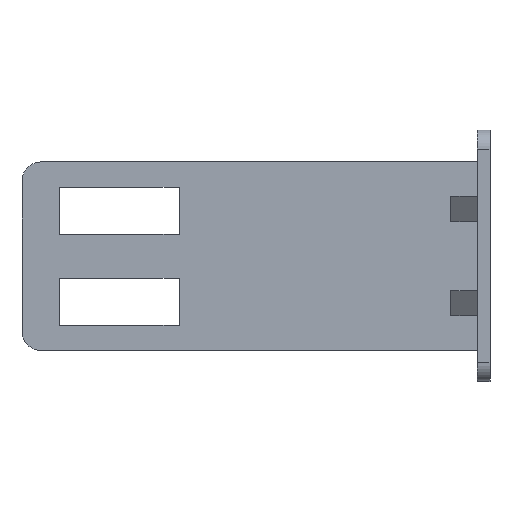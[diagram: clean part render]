
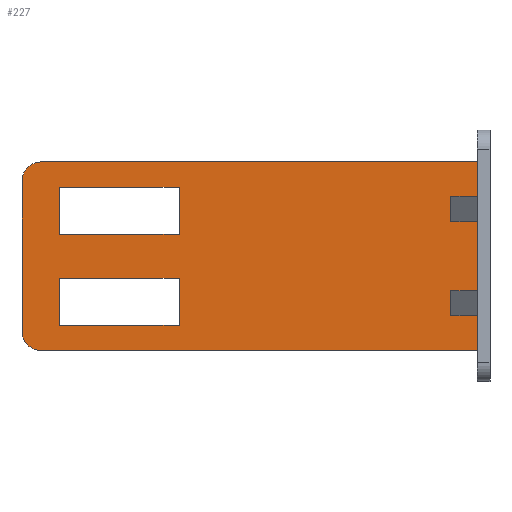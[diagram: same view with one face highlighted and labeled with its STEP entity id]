
A CAD part, top view. The second image highlights one B-rep face of the part: STEP entity #227.
In plain terms, the highlighted planar face has unit normal (0, 0, 1).
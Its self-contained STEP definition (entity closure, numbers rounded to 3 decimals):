
#5 = EDGE_CURVE ( 'NONE', #389, #46, #714, .T. ) ;
#12 = VERTEX_POINT ( 'NONE', #414 ) ;
#31 = EDGE_CURVE ( 'NONE', #82, #81, #724, .T. ) ;
#46 = VERTEX_POINT ( 'NONE', #460 ) ;
#72 = VERTEX_POINT ( 'NONE', #483 ) ;
#78 = VERTEX_POINT ( 'NONE', #488 ) ;
#81 = VERTEX_POINT ( 'NONE', #490 ) ;
#82 = VERTEX_POINT ( 'NONE', #496 ) ;
#96 = EDGE_CURVE ( 'NONE', #78, #12, #748, .T. ) ;
#179 = EDGE_LOOP ( 'NONE', ( #565, #566, #567, #568, #569, #570, #571, #572, #573, #574 ) ) ;
#188 = EDGE_CURVE ( 'NONE', #46, #72, #976, .T. ) ;
#227 = ADVANCED_FACE ( 'NONE', ( #1228, #1242, #1244 ), #1107, .F. ) ;
#269 = EDGE_LOOP ( 'NONE', ( #561, #562, #563, #564 ) ) ;
#305 = EDGE_CURVE ( 'NONE', #382, #383, #1283, .T. ) ;
#306 = EDGE_CURVE ( 'NONE', #384, #382, #1292, .T. ) ;
#307 = EDGE_CURVE ( 'NONE', #381, #380, #1294, .T. ) ;
#308 = EDGE_CURVE ( 'NONE', #380, #378, #1296, .T. ) ;
#309 = EDGE_CURVE ( 'NONE', #378, #379, #1010, .T. ) ;
#310 = EDGE_CURVE ( 'NONE', #379, #381, #1417, .T. ) ;
#311 = EDGE_CURVE ( 'NONE', #383, #385, #1419, .T. ) ;
#312 = EDGE_CURVE ( 'NONE', #385, #384, #1421, .T. ) ;
#313 = EDGE_CURVE ( 'NONE', #388, #78, #1423, .T. ) ;
#314 = EDGE_CURVE ( 'NONE', #72, #386, #1426, .T. ) ;
#315 = EDGE_CURVE ( 'NONE', #81, #387, #1285, .T. ) ;
#316 = EDGE_CURVE ( 'NONE', #386, #82, #1427, .T. ) ;
#318 = EDGE_CURVE ( 'NONE', #387, #388, #1425, .T. ) ;
#319 = EDGE_CURVE ( 'NONE', #389, #12, #1432, .T. ) ;
#322 = AXIS2_PLACEMENT_3D ( 'NONE', #410, #412, #413 ) ;
#339 = EDGE_LOOP ( 'NONE', ( #557, #558, #559, #560 ) ) ;
#378 = VERTEX_POINT ( 'NONE', #1376 ) ;
#379 = VERTEX_POINT ( 'NONE', #1381 ) ;
#380 = VERTEX_POINT ( 'NONE', #1379 ) ;
#381 = VERTEX_POINT ( 'NONE', #1382 ) ;
#382 = VERTEX_POINT ( 'NONE', #1374 ) ;
#383 = VERTEX_POINT ( 'NONE', #1383 ) ;
#384 = VERTEX_POINT ( 'NONE', #1380 ) ;
#385 = VERTEX_POINT ( 'NONE', #1384 ) ;
#386 = VERTEX_POINT ( 'NONE', #1371 ) ;
#387 = VERTEX_POINT ( 'NONE', #1385 ) ;
#388 = VERTEX_POINT ( 'NONE', #1386 ) ;
#389 = VERTEX_POINT ( 'NONE', #1387 ) ;
#410 = CARTESIAN_POINT ( 'NONE',  ( -71.5, 12., -25. ) ) ;
#412 = DIRECTION ( 'NONE',  ( 0., 0., 1. ) ) ;
#413 = DIRECTION ( 'NONE',  ( -1., 0., 0. ) ) ;
#414 = CARTESIAN_POINT ( 'NONE',  ( -2., 15., -25. ) ) ;
#437 = CARTESIAN_POINT ( 'NONE',  ( -2., 20., -25. ) ) ;
#444 = DIRECTION ( 'NONE',  ( 0., 1., 0. ) ) ;
#460 = CARTESIAN_POINT ( 'NONE',  ( -74.5, 12., -25. ) ) ;
#483 = CARTESIAN_POINT ( 'NONE',  ( -74.5, -12., -25. ) ) ;
#488 = CARTESIAN_POINT ( 'NONE',  ( -2., -5.5, -25. ) ) ;
#490 = CARTESIAN_POINT ( 'NONE',  ( -2., -9.5, -25. ) ) ;
#496 = CARTESIAN_POINT ( 'NONE',  ( -2., -15., -25. ) ) ;
#514 = CARTESIAN_POINT ( 'NONE',  ( -2., 20., -25. ) ) ;
#515 = DIRECTION ( 'NONE',  ( 0., 1., 0. ) ) ;
#557 = ORIENTED_EDGE ( 'NONE', *, *, #309, .F. ) ;
#558 = ORIENTED_EDGE ( 'NONE', *, *, #308, .F. ) ;
#559 = ORIENTED_EDGE ( 'NONE', *, *, #307, .F. ) ;
#560 = ORIENTED_EDGE ( 'NONE', *, *, #310, .F. ) ;
#561 = ORIENTED_EDGE ( 'NONE', *, *, #305, .F. ) ;
#562 = ORIENTED_EDGE ( 'NONE', *, *, #306, .F. ) ;
#563 = ORIENTED_EDGE ( 'NONE', *, *, #312, .F. ) ;
#564 = ORIENTED_EDGE ( 'NONE', *, *, #311, .F. ) ;
#565 = ORIENTED_EDGE ( 'NONE', *, *, #188, .T. ) ;
#566 = ORIENTED_EDGE ( 'NONE', *, *, #314, .T. ) ;
#567 = ORIENTED_EDGE ( 'NONE', *, *, #316, .T. ) ;
#568 = ORIENTED_EDGE ( 'NONE', *, *, #31, .T. ) ;
#569 = ORIENTED_EDGE ( 'NONE', *, *, #315, .T. ) ;
#570 = ORIENTED_EDGE ( 'NONE', *, *, #318, .T. ) ;
#571 = ORIENTED_EDGE ( 'NONE', *, *, #313, .T. ) ;
#572 = ORIENTED_EDGE ( 'NONE', *, *, #96, .T. ) ;
#573 = ORIENTED_EDGE ( 'NONE', *, *, #319, .F. ) ;
#574 = ORIENTED_EDGE ( 'NONE', *, *, #5, .T. ) ;
#714 = CIRCLE ( 'NONE', #322, 3. ) ;
#724 = LINE ( 'NONE', #437, #728 ) ;
#728 = VECTOR ( 'NONE', #444, 1000. ) ;
#748 = LINE ( 'NONE', #514, #750 ) ;
#750 = VECTOR ( 'NONE', #515, 1000. ) ;
#905 = CARTESIAN_POINT ( 'NONE',  ( -74.5, 20., -25. ) ) ;
#906 = DIRECTION ( 'NONE',  ( 0., -1., 0. ) ) ;
#976 = LINE ( 'NONE', #905, #977 ) ;
#977 = VECTOR ( 'NONE', #906, 1000. ) ;
#1010 = LINE ( 'NONE', #1355, #1416 ) ;
#1049 = AXIS2_PLACEMENT_3D ( 'NONE', #1108, #1109, #1110 ) ;
#1107 = PLANE ( 'NONE',  #1049 ) ;
#1108 = CARTESIAN_POINT ( 'NONE',  ( -74.5, 20., -25. ) ) ;
#1109 = DIRECTION ( 'NONE',  ( 0., 0., -1. ) ) ;
#1110 = DIRECTION ( 'NONE',  ( -1., 0., 0. ) ) ;
#1228 = FACE_BOUND ( 'NONE', #339, .T. ) ;
#1242 = FACE_BOUND ( 'NONE', #269, .T. ) ;
#1244 = FACE_OUTER_BOUND ( 'NONE', #179, .T. ) ;
#1283 = LINE ( 'NONE', #1347, #1288 ) ;
#1285 = LINE ( 'NONE', #1367, #1290 ) ;
#1288 = VECTOR ( 'NONE', #1348, 1000. ) ;
#1290 = VECTOR ( 'NONE', #1368, 1000. ) ;
#1292 = LINE ( 'NONE', #1349, #1293 ) ;
#1293 = VECTOR ( 'NONE', #1350, 1000. ) ;
#1294 = LINE ( 'NONE', #1351, #1295 ) ;
#1295 = VECTOR ( 'NONE', #1352, 1000. ) ;
#1296 = LINE ( 'NONE', #1353, #1297 ) ;
#1297 = VECTOR ( 'NONE', #1354, 1000. ) ;
#1322 = AXIS2_PLACEMENT_3D ( 'NONE', #1341, #1365, #1366 ) ;
#1341 = CARTESIAN_POINT ( 'NONE',  ( -71.5, -12., -25. ) ) ;
#1344 = CARTESIAN_POINT ( 'NONE',  ( -6.243, -5.5, -25. ) ) ;
#1347 = CARTESIAN_POINT ( 'NONE',  ( -49.5, 3.5, -25. ) ) ;
#1348 = DIRECTION ( 'NONE',  ( 0., 1., 0. ) ) ;
#1349 = CARTESIAN_POINT ( 'NONE',  ( -68.5, 3.5, -25. ) ) ;
#1350 = DIRECTION ( 'NONE',  ( 1., 0., 0. ) ) ;
#1351 = CARTESIAN_POINT ( 'NONE',  ( -68.5, -3.5, -25. ) ) ;
#1352 = DIRECTION ( 'NONE',  ( -1., 0., 0. ) ) ;
#1353 = CARTESIAN_POINT ( 'NONE',  ( -68.5, -3.5, -25. ) ) ;
#1354 = DIRECTION ( 'NONE',  ( 0., -1., 0. ) ) ;
#1355 = CARTESIAN_POINT ( 'NONE',  ( -68.5, -11., -25. ) ) ;
#1356 = DIRECTION ( 'NONE',  ( 1., 0., 0. ) ) ;
#1357 = CARTESIAN_POINT ( 'NONE',  ( -49.5, -3.5, -25. ) ) ;
#1358 = DIRECTION ( 'NONE',  ( 0., 1., 0. ) ) ;
#1359 = CARTESIAN_POINT ( 'NONE',  ( -68.5, 11., -25. ) ) ;
#1360 = DIRECTION ( 'NONE',  ( -1., 0., 0. ) ) ;
#1361 = CARTESIAN_POINT ( 'NONE',  ( -68.5, 3.5, -25. ) ) ;
#1362 = DIRECTION ( 'NONE',  ( 0., -1., 0. ) ) ;
#1363 = CARTESIAN_POINT ( 'NONE',  ( -500004., -5.5, -25. ) ) ;
#1364 = DIRECTION ( 'NONE',  ( 1., 0., 0. ) ) ;
#1365 = DIRECTION ( 'NONE',  ( 0., 0., 1. ) ) ;
#1366 = DIRECTION ( 'NONE',  ( -1., 0., 0. ) ) ;
#1367 = CARTESIAN_POINT ( 'NONE',  ( -500004., -9.5, -25. ) ) ;
#1368 = DIRECTION ( 'NONE',  ( -1., 0., 0. ) ) ;
#1369 = CARTESIAN_POINT ( 'NONE',  ( -79.885, -15., -25. ) ) ;
#1370 = DIRECTION ( 'NONE',  ( 1., 0., 0. ) ) ;
#1371 = CARTESIAN_POINT ( 'NONE',  ( -71.5, -15., -25. ) ) ;
#1374 = CARTESIAN_POINT ( 'NONE',  ( -49.5, 3.5, -25. ) ) ;
#1375 = DIRECTION ( 'NONE',  ( 0., 1., 0. ) ) ;
#1376 = CARTESIAN_POINT ( 'NONE',  ( -68.5, -11., -25. ) ) ;
#1377 = CARTESIAN_POINT ( 'NONE',  ( -79.885, 15., -25. ) ) ;
#1378 = DIRECTION ( 'NONE',  ( 1., 0., 0. ) ) ;
#1379 = CARTESIAN_POINT ( 'NONE',  ( -68.5, -3.5, -25. ) ) ;
#1380 = CARTESIAN_POINT ( 'NONE',  ( -68.5, 3.5, -25. ) ) ;
#1381 = CARTESIAN_POINT ( 'NONE',  ( -49.5, -11., -25. ) ) ;
#1382 = CARTESIAN_POINT ( 'NONE',  ( -49.5, -3.5, -25. ) ) ;
#1383 = CARTESIAN_POINT ( 'NONE',  ( -49.5, 11., -25. ) ) ;
#1384 = CARTESIAN_POINT ( 'NONE',  ( -68.5, 11., -25. ) ) ;
#1385 = CARTESIAN_POINT ( 'NONE',  ( -6.243, -9.5, -25. ) ) ;
#1386 = CARTESIAN_POINT ( 'NONE',  ( -6.243, -5.5, -25. ) ) ;
#1387 = CARTESIAN_POINT ( 'NONE',  ( -71.5, 15., -25. ) ) ;
#1416 = VECTOR ( 'NONE', #1356, 1000. ) ;
#1417 = LINE ( 'NONE', #1357, #1418 ) ;
#1418 = VECTOR ( 'NONE', #1358, 1000. ) ;
#1419 = LINE ( 'NONE', #1359, #1420 ) ;
#1420 = VECTOR ( 'NONE', #1360, 1000. ) ;
#1421 = LINE ( 'NONE', #1361, #1422 ) ;
#1422 = VECTOR ( 'NONE', #1362, 1000. ) ;
#1423 = LINE ( 'NONE', #1363, #1424 ) ;
#1424 = VECTOR ( 'NONE', #1364, 1000. ) ;
#1425 = LINE ( 'NONE', #1344, #1431 ) ;
#1426 = CIRCLE ( 'NONE', #1322, 3. ) ;
#1427 = LINE ( 'NONE', #1369, #1428 ) ;
#1428 = VECTOR ( 'NONE', #1370, 1000. ) ;
#1431 = VECTOR ( 'NONE', #1375, 1000. ) ;
#1432 = LINE ( 'NONE', #1377, #1433 ) ;
#1433 = VECTOR ( 'NONE', #1378, 1000. ) ;
